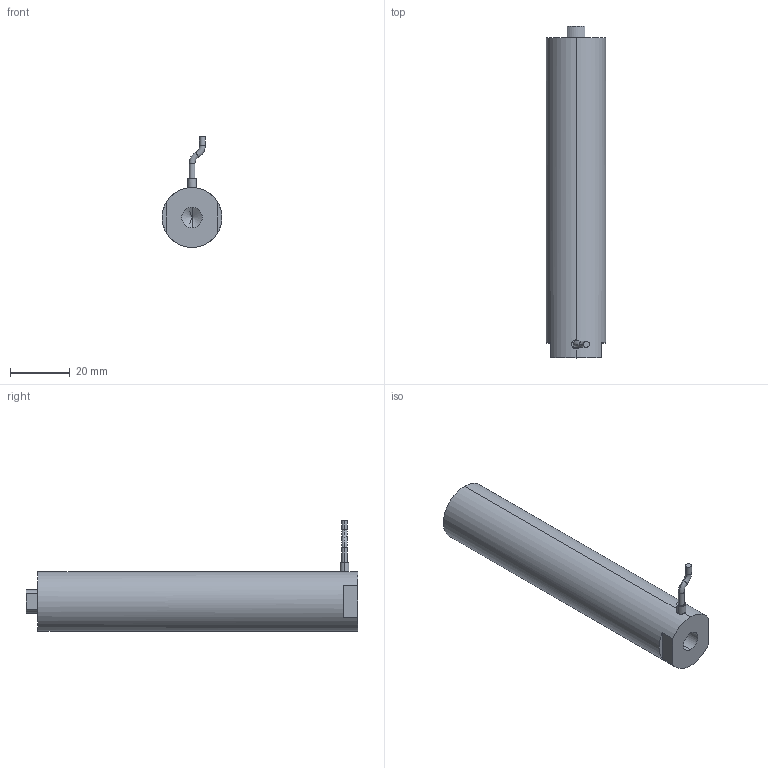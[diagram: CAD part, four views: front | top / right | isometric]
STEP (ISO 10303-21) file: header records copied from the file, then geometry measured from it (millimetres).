
FILE_DESCRIPTION (( 'STEP AP203' ), '1' );
FILE_NAME ('ﾄﾚﾂﾝﾎﾆﾊｽ100VS20.STEP', '2021-07-08T05:25:30', ( 'ﾎ｢ﾈ橆ﾃｻｧ' ), ( 'ﾎ｢ﾈ晥ｫﾋｾ' ), 'SwSTEP 2.0', 'SolidWorks 2016', '' );
FILE_SCHEMA (( 'CONFIG_CONTROL_DESIGN' ));
Length unit declared in the file: millimetre
Products named in the file (1): 囀蹟恇宒100VS20
Bounding box: 20 x 111 x 37.06 mm (x, y, z)
Volume: 33225.9 mm3; surface area: 7907.2 mm2
Topology: 1 solids, 1 shells, 938 faces, 2537 edges, 1684 vertices
Faces by surface type: bspline 517, plane 305, cylinder 108, torus 4, cone 4
Entity records: 45423 total; most frequent: CARTESIAN_POINT 26438, ORIENTED_EDGE 5058, EDGE_CURVE 2529, DIRECTION 1933, B_SPLINE_CURVE_WITH_KNOTS 1708, VERTEX_POINT 1682, EDGE_LOOP 1027, FACE_OUTER_BOUND 938
